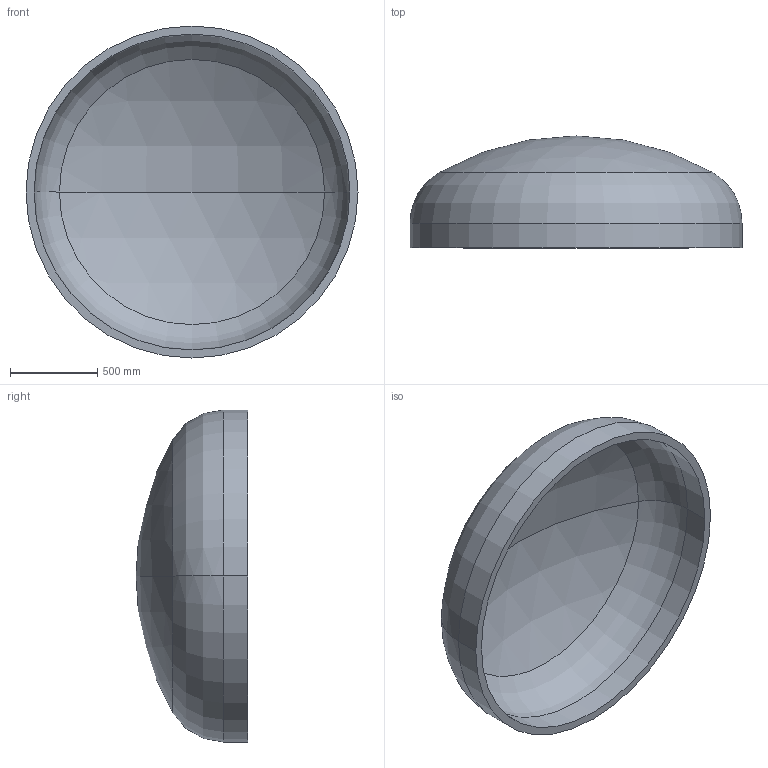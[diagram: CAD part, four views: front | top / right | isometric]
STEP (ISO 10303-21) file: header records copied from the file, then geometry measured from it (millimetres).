
FILE_DESCRIPTION (( 'STEP AP203' ), '1' );
FILE_NAME ('DIN 28013 Korbbogenform_-_Boden DIN 28013 - 1900 x 140 - I - s=46.step', '2016-07-01T13:11:12', ( '' ), ( '' ), 'SwSTEP 2.0', 'SolidWorks 2013', '' );
FILE_SCHEMA (( 'CONFIG_CONTROL_DESIGN' ));
Length unit declared in the file: millimetre
Products named in the file (1): DIN 28013 Korbbogenform_-_Boden DIN 28013 - 1900 x 140 - I - s=46
Bounding box: 1900 x 640.21 x 1900 mm (x, y, z)
Volume: 212184620 mm3; surface area: 9497774.8 mm2
Topology: 1 solids, 1 shells, 13 faces, 24 edges, 14 vertices
Faces by surface type: torus 4, cylinder 4, sphere 4, plane 1
Entity records: 407 total; most frequent: DIRECTION 72, CARTESIAN_POINT 52, ORIENTED_EDGE 48, AXIS2_PLACEMENT_3D 34, EDGE_CURVE 24, CIRCLE 20, EDGE_LOOP 14, VERTEX_POINT 14
